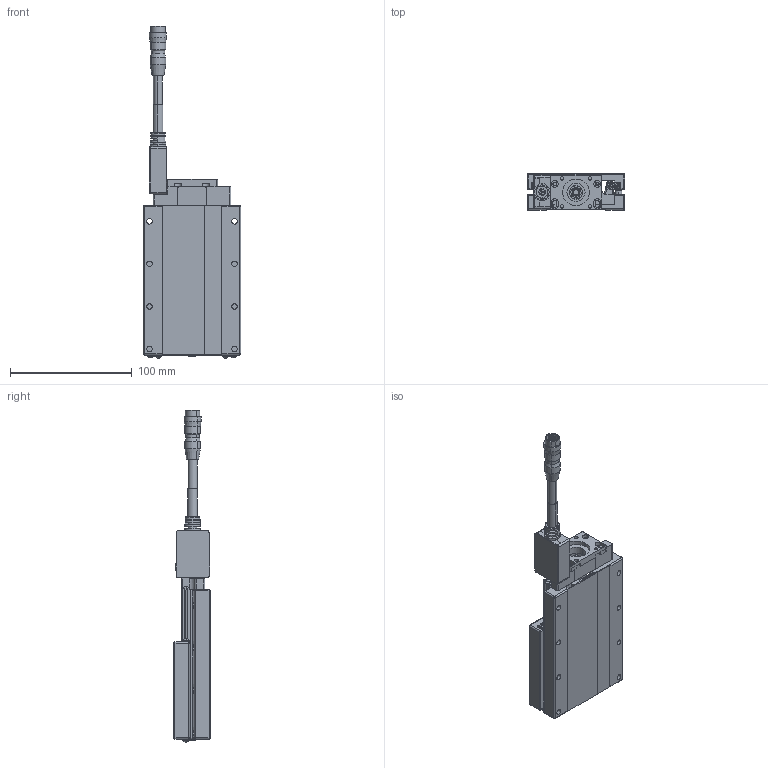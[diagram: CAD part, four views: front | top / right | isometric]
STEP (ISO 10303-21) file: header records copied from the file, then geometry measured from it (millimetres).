
FILE_DESCRIPTION (( 'STEP AP203' ), '1' );
FILE_NAME ('CXS8050(28框無馬達).STEP', '2023-12-25T08:34:15', ( '' ), ( '' ), 'SwSTEP 2.0', 'SolidWorks 2019', '' );
FILE_SCHEMA (( 'CONFIG_CONTROL_DESIGN' ));
Length unit declared in the file: millimetre
Products named in the file (5): CXS50-G28_GMT; CXS8050(28框無馬達); Group1^CXS8050(28框無馬達)_defeature_GMT; Group2^CXS8050(28框無馬達)_defeature_GMT; HR10A-10J-12P
Assembly tree (4 placements, depth 2):
  CXS8050(28框無馬達)
    Group1^CXS8050(28框無馬達)_defeature_GMT
    Group2^CXS8050(28框無馬達)_defeature_GMT
    HR10A-10J-12P
    CXS50-G28_GMT
Bounding box: 80 x 30 x 273.12 mm (x, y, z)
Volume: 58563.7 mm3; surface area: 82878.7 mm2
Topology: 9 solids, 12 shells, 1947 faces, 4939 edges, 3092 vertices
Faces by surface type: plane 996, cylinder 524, cone 209, sphere 140, bspline 39, torus 39
Entity records: 61465 total; most frequent: CARTESIAN_POINT 13216, DIRECTION 10357, ORIENTED_EDGE 9778, EDGE_CURVE 4889, AXIS2_PLACEMENT_3D 3865, VERTEX_POINT 3092, VECTOR 2627, LINE 2627
